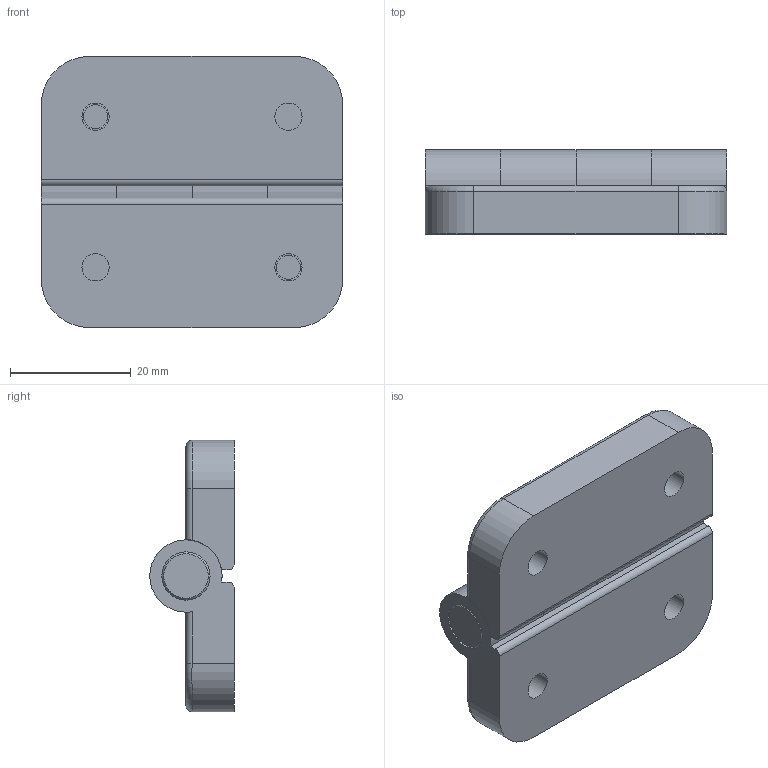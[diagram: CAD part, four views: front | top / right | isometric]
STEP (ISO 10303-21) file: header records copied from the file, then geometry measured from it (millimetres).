
FILE_DESCRIPTION (( 'STEP AP214' ), '1' );
FILE_NAME ('122.2-45-50-SH.step', '2020-09-10T09:42:08', ( '' ), ( '' ), 'SwSTEP 2.0', 'SolidWorks 2019', '' );
FILE_SCHEMA (( 'AUTOMOTIVE_DESIGN' ));
Length unit declared in the file: millimetre
Products named in the file (3): WB122.2^WB122.2_SH mit; WB122.2^WB122.2_SH ohne; 122.2-45-50-SH
Assembly tree (2 placements, depth 2):
  122.2-45-50-SH
    WB122.2^WB122.2_SH mit
    WB122.2^WB122.2_SH ohne
Bounding box: 50 x 14 x 45 mm (x, y, z)
Volume: 19576 mm3; surface area: 9413.8 mm2
Topology: 2 solids, 2 shells, 86 faces, 192 edges, 118 vertices
Faces by surface type: cylinder 46, plane 28, cone 8, torus 4
Entity records: 2534 total; most frequent: DIRECTION 474, CARTESIAN_POINT 419, ORIENTED_EDGE 384, AXIS2_PLACEMENT_3D 193, EDGE_CURVE 192, VERTEX_POINT 118, CIRCLE 102, EDGE_LOOP 100
